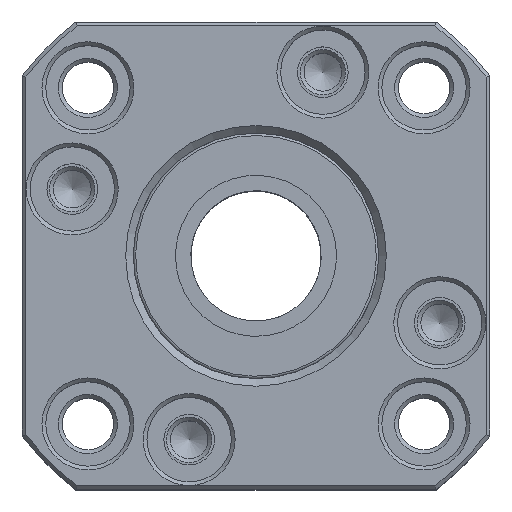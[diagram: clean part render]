
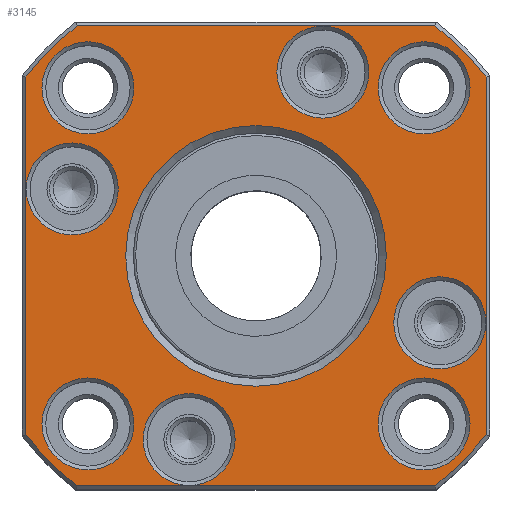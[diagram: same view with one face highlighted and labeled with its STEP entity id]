
A CAD part, top view. The second image highlights one B-rep face of the part: STEP entity #3145.
In plain terms, the highlighted planar face has unit normal (0, 0, 1).
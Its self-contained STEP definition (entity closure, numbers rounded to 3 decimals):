
#175=FACE_BOUND('',#590,.T.);
#176=FACE_BOUND('',#591,.T.);
#177=FACE_BOUND('',#592,.T.);
#178=FACE_BOUND('',#593,.T.);
#179=FACE_BOUND('',#594,.T.);
#180=FACE_BOUND('',#595,.T.);
#181=FACE_BOUND('',#596,.T.);
#182=FACE_BOUND('',#597,.T.);
#183=FACE_BOUND('',#598,.T.);
#242=PLANE('',#3550);
#386=FACE_OUTER_BOUND('',#589,.T.);
#589=EDGE_LOOP('',(#2401,#2402,#2403,#2404,#2405,#2406,#2407,#2408));
#590=EDGE_LOOP('',(#2409));
#591=EDGE_LOOP('',(#2410));
#592=EDGE_LOOP('',(#2411));
#593=EDGE_LOOP('',(#2412));
#594=EDGE_LOOP('',(#2413));
#595=EDGE_LOOP('',(#2414));
#596=EDGE_LOOP('',(#2415));
#597=EDGE_LOOP('',(#2416));
#598=EDGE_LOOP('',(#2417));
#820=LINE('',#5400,#951);
#821=LINE('',#5404,#952);
#822=LINE('',#5408,#953);
#823=LINE('',#5412,#954);
#951=VECTOR('',#4254,10.);
#952=VECTOR('',#4257,10.);
#953=VECTOR('',#4260,10.);
#954=VECTOR('',#4263,10.);
#1094=CIRCLE('',#3547,6.);
#1097=CIRCLE('',#3551,38.);
#1098=CIRCLE('',#3552,38.);
#1099=CIRCLE('',#3553,38.);
#1100=CIRCLE('',#3554,38.);
#1101=CIRCLE('',#3555,6.);
#1102=CIRCLE('',#3556,6.);
#1103=CIRCLE('',#3557,6.);
#1104=CIRCLE('',#3558,6.);
#1105=CIRCLE('',#3559,17.);
#1106=CIRCLE('',#3560,6.);
#1107=CIRCLE('',#3561,6.);
#1108=CIRCLE('',#3562,6.);
#1409=VERTEX_POINT('',#5390);
#1412=VERTEX_POINT('',#5398);
#1413=VERTEX_POINT('',#5399);
#1414=VERTEX_POINT('',#5401);
#1415=VERTEX_POINT('',#5403);
#1416=VERTEX_POINT('',#5405);
#1417=VERTEX_POINT('',#5407);
#1418=VERTEX_POINT('',#5409);
#1419=VERTEX_POINT('',#5411);
#1420=VERTEX_POINT('',#5414);
#1421=VERTEX_POINT('',#5416);
#1422=VERTEX_POINT('',#5418);
#1423=VERTEX_POINT('',#5420);
#1424=VERTEX_POINT('',#5422);
#1425=VERTEX_POINT('',#5424);
#1426=VERTEX_POINT('',#5426);
#1427=VERTEX_POINT('',#5428);
#1793=EDGE_CURVE('',#1409,#1409,#1094,.T.);
#1797=EDGE_CURVE('',#1412,#1413,#820,.T.);
#1798=EDGE_CURVE('',#1414,#1412,#1097,.T.);
#1799=EDGE_CURVE('',#1415,#1414,#821,.T.);
#1800=EDGE_CURVE('',#1416,#1415,#1098,.T.);
#1801=EDGE_CURVE('',#1417,#1416,#822,.T.);
#1802=EDGE_CURVE('',#1418,#1417,#1099,.T.);
#1803=EDGE_CURVE('',#1419,#1418,#823,.T.);
#1804=EDGE_CURVE('',#1413,#1419,#1100,.T.);
#1805=EDGE_CURVE('',#1420,#1420,#1101,.T.);
#1806=EDGE_CURVE('',#1421,#1421,#1102,.T.);
#1807=EDGE_CURVE('',#1422,#1422,#1103,.T.);
#1808=EDGE_CURVE('',#1423,#1423,#1104,.T.);
#1809=EDGE_CURVE('',#1424,#1424,#1105,.T.);
#1810=EDGE_CURVE('',#1425,#1425,#1106,.T.);
#1811=EDGE_CURVE('',#1426,#1426,#1107,.T.);
#1812=EDGE_CURVE('',#1427,#1427,#1108,.T.);
#2401=ORIENTED_EDGE('',*,*,#1797,.F.);
#2402=ORIENTED_EDGE('',*,*,#1798,.F.);
#2403=ORIENTED_EDGE('',*,*,#1799,.F.);
#2404=ORIENTED_EDGE('',*,*,#1800,.F.);
#2405=ORIENTED_EDGE('',*,*,#1801,.F.);
#2406=ORIENTED_EDGE('',*,*,#1802,.F.);
#2407=ORIENTED_EDGE('',*,*,#1803,.F.);
#2408=ORIENTED_EDGE('',*,*,#1804,.F.);
#2409=ORIENTED_EDGE('',*,*,#1805,.F.);
#2410=ORIENTED_EDGE('',*,*,#1806,.F.);
#2411=ORIENTED_EDGE('',*,*,#1807,.F.);
#2412=ORIENTED_EDGE('',*,*,#1808,.F.);
#2413=ORIENTED_EDGE('',*,*,#1809,.F.);
#2414=ORIENTED_EDGE('',*,*,#1810,.F.);
#2415=ORIENTED_EDGE('',*,*,#1811,.F.);
#2416=ORIENTED_EDGE('',*,*,#1812,.F.);
#2417=ORIENTED_EDGE('',*,*,#1793,.F.);
#3145=ADVANCED_FACE('',(#386,#175,#176,#177,#178,#179,#180,#181,#182,#183),
#242,.T.);
#3547=AXIS2_PLACEMENT_3D('',#5391,#4245,#4246);
#3550=AXIS2_PLACEMENT_3D('',#5397,#4252,#4253);
#3551=AXIS2_PLACEMENT_3D('',#5402,#4255,#4256);
#3552=AXIS2_PLACEMENT_3D('',#5406,#4258,#4259);
#3553=AXIS2_PLACEMENT_3D('',#5410,#4261,#4262);
#3554=AXIS2_PLACEMENT_3D('',#5413,#4264,#4265);
#3555=AXIS2_PLACEMENT_3D('',#5415,#4266,#4267);
#3556=AXIS2_PLACEMENT_3D('',#5417,#4268,#4269);
#3557=AXIS2_PLACEMENT_3D('',#5419,#4270,#4271);
#3558=AXIS2_PLACEMENT_3D('',#5421,#4272,#4273);
#3559=AXIS2_PLACEMENT_3D('',#5423,#4274,#4275);
#3560=AXIS2_PLACEMENT_3D('',#5425,#4276,#4277);
#3561=AXIS2_PLACEMENT_3D('',#5427,#4278,#4279);
#3562=AXIS2_PLACEMENT_3D('',#5429,#4280,#4281);
#4245=DIRECTION('center_axis',(0.,0.,1.));
#4246=DIRECTION('ref_axis',(0.,1.,0.));
#4252=DIRECTION('center_axis',(0.,0.,1.));
#4253=DIRECTION('ref_axis',(1.,0.,0.));
#4254=DIRECTION('',(1.,0.,0.));
#4255=DIRECTION('center_axis',(0.,0.,-1.));
#4256=DIRECTION('ref_axis',(-1.,0.,0.));
#4257=DIRECTION('',(0.,1.,0.));
#4258=DIRECTION('center_axis',(0.,0.,-1.));
#4259=DIRECTION('ref_axis',(0.,-1.,0.));
#4260=DIRECTION('',(-1.,0.,0.));
#4261=DIRECTION('center_axis',(0.,0.,-1.));
#4262=DIRECTION('ref_axis',(1.,0.,0.));
#4263=DIRECTION('',(0.,-1.,0.));
#4264=DIRECTION('center_axis',(0.,0.,-1.));
#4265=DIRECTION('ref_axis',(0.,1.,0.));
#4266=DIRECTION('center_axis',(0.,0.,1.));
#4267=DIRECTION('ref_axis',(1.,0.,0.));
#4268=DIRECTION('center_axis',(0.,0.,1.));
#4269=DIRECTION('ref_axis',(0.,-1.,0.));
#4270=DIRECTION('center_axis',(0.,0.,1.));
#4271=DIRECTION('ref_axis',(-1.,0.,0.));
#4272=DIRECTION('center_axis',(0.,0.,1.));
#4273=DIRECTION('ref_axis',(-1.,0.,0.));
#4274=DIRECTION('center_axis',(0.,0.,1.));
#4275=DIRECTION('ref_axis',(-1.,0.,0.));
#4276=DIRECTION('center_axis',(0.,0.,1.));
#4277=DIRECTION('ref_axis',(0.,1.,0.));
#4278=DIRECTION('center_axis',(0.,0.,1.));
#4279=DIRECTION('ref_axis',(0.,-1.,0.));
#4280=DIRECTION('center_axis',(0.,0.,1.));
#4281=DIRECTION('ref_axis',(1.,0.,0.));
#5390=CARTESIAN_POINT('',(23.962,-14.722,0.));
#5391=CARTESIAN_POINT('Origin',(23.962,-8.722,0.));
#5397=CARTESIAN_POINT('Origin',(0.,0.,0.));
#5398=CARTESIAN_POINT('',(-23.324,30.,0.));
#5399=CARTESIAN_POINT('',(23.324,30.,0.));
#5400=CARTESIAN_POINT('',(-15.25,30.,0.));
#5401=CARTESIAN_POINT('',(-30.,23.324,0.));
#5402=CARTESIAN_POINT('Origin',(0.,0.,0.));
#5403=CARTESIAN_POINT('',(-30.,-23.324,0.));
#5404=CARTESIAN_POINT('',(-30.,-15.25,0.));
#5405=CARTESIAN_POINT('',(-23.324,-30.,0.));
#5406=CARTESIAN_POINT('Origin',(0.,0.,0.));
#5407=CARTESIAN_POINT('',(23.324,-30.,0.));
#5408=CARTESIAN_POINT('',(15.25,-30.,0.));
#5409=CARTESIAN_POINT('',(30.,-23.324,0.));
#5410=CARTESIAN_POINT('Origin',(0.,0.,0.));
#5411=CARTESIAN_POINT('',(30.,23.324,0.));
#5412=CARTESIAN_POINT('',(30.,15.25,0.));
#5413=CARTESIAN_POINT('Origin',(0.,0.,0.));
#5414=CARTESIAN_POINT('',(15.92,-21.92,0.));
#5415=CARTESIAN_POINT('Origin',(21.92,-21.92,0.));
#5416=CARTESIAN_POINT('',(-21.92,-15.92,0.));
#5417=CARTESIAN_POINT('Origin',(-21.92,-21.92,0.));
#5418=CARTESIAN_POINT('',(-15.92,21.92,0.));
#5419=CARTESIAN_POINT('Origin',(-21.92,21.92,0.));
#5420=CARTESIAN_POINT('',(14.722,23.962,0.));
#5421=CARTESIAN_POINT('Origin',(8.722,23.962,0.));
#5422=CARTESIAN_POINT('',(17.,0.,0.));
#5423=CARTESIAN_POINT('Origin',(0.,0.,0.));
#5424=CARTESIAN_POINT('',(21.92,15.92,0.));
#5425=CARTESIAN_POINT('Origin',(21.92,21.92,0.));
#5426=CARTESIAN_POINT('',(-23.962,14.722,0.));
#5427=CARTESIAN_POINT('Origin',(-23.962,8.722,0.));
#5428=CARTESIAN_POINT('',(-14.722,-23.962,0.));
#5429=CARTESIAN_POINT('Origin',(-8.722,-23.962,0.));
